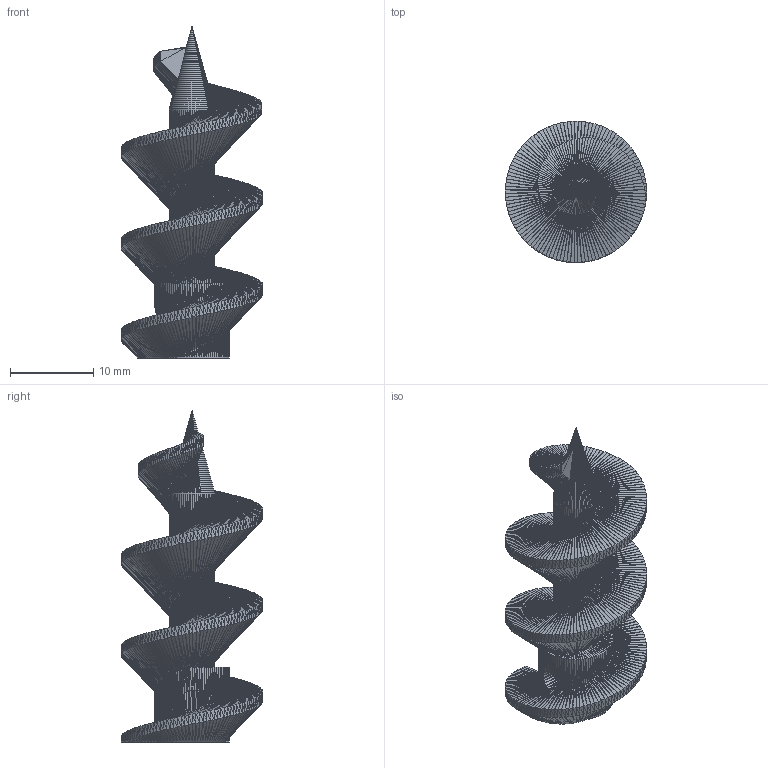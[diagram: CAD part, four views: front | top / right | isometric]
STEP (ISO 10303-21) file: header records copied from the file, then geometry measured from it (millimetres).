
FILE_DESCRIPTION(('Open CASCADE Model'),'2;1');
FILE_NAME('Open CASCADE Shape Model','2026-11-03T00:01:07',('Author'),( 'Open CASCADE'),'Open CASCADE STEP processor 8.0','build123d', 'Unknown');
FILE_SCHEMA(('AUTOMOTIVE_DESIGN { 1 0 10303 214 1 1 1 1 }'));
Products named in the file (1): SOLID
Bounding box: 17 x 17 x 40 mm (x, y, z)
Volume: 3064.6 mm3; surface area: 2172.2 mm2
Topology: 1 solids, 1 shells, 6628 faces, 9942 edges, 3314 vertices
Faces by surface type: plane 6628
Entity records: 248568 total; most frequent: CARTESIAN_POINT 49711, DIRECTION 33142, ORIENTED_EDGE 19884, LINE 19884, VECTOR 19884, PCURVE 19884, DEFINITIONAL_REPRESENTATION 19884, EDGE_CURVE 9942
